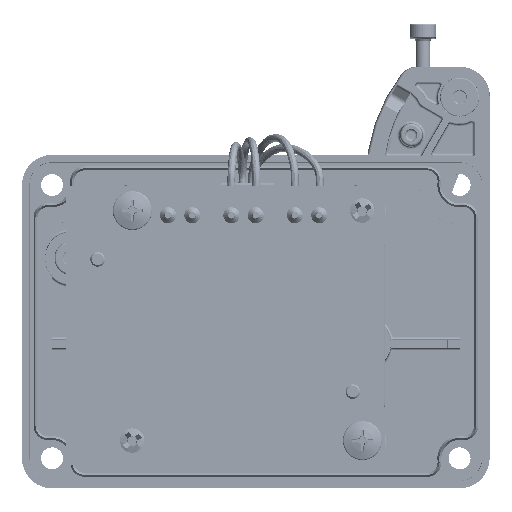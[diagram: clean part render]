
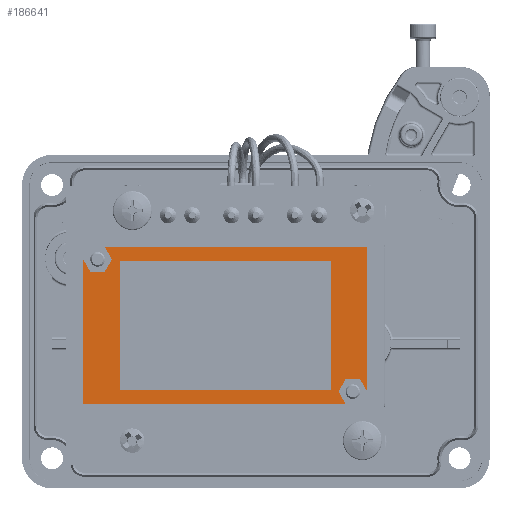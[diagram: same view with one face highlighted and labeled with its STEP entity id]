
A CAD part, top view. The second image highlights one B-rep face of the part: STEP entity #186641.
In plain terms, the highlighted planar face has unit normal (0, 0, 1).
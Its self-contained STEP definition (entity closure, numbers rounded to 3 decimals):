
#2980 = CARTESIAN_POINT ( 'NONE',  ( -35.375, -17.08, 114.8 ) ) ;
#5178 = LINE ( 'NONE', #95284, #89108 ) ;
#6905 = EDGE_CURVE ( 'NONE', #161028, #52583, #104644, .T. ) ;
#7089 = EDGE_CURVE ( 'NONE', #52583, #76836, #134868, .T. ) ;
#7691 = DIRECTION ( 'NONE',  ( -0.5, -0.866, 0. ) ) ;
#8199 = LINE ( 'NONE', #154977, #57752 ) ;
#10729 = ORIENTED_EDGE ( 'NONE', *, *, #43231, .T. ) ;
#11737 = CARTESIAN_POINT ( 'NONE',  ( 18.408, -17.08, 114.8 ) ) ;
#11897 = CARTESIAN_POINT ( 'NONE',  ( -30.958, 10.02, 114.8 ) ) ;
#11976 = CARTESIAN_POINT ( 'NONE',  ( -29.486, 12.57, 114.8 ) ) ;
#13624 = VERTEX_POINT ( 'NONE', #86523 ) ;
#13867 = LINE ( 'NONE', #90490, #97207 ) ;
#16192 = VECTOR ( 'NONE', #65837, 1000. ) ;
#16530 = CARTESIAN_POINT ( 'NONE',  ( -6.275, -0.98, 114.8 ) ) ;
#17312 = DIRECTION ( 'NONE',  ( -0.5, 0.866, 0. ) ) ;
#17404 = DIRECTION ( 'NONE',  ( 0., 1., 0. ) ) ;
#19257 = DIRECTION ( 'NONE',  ( 1., 0., 0. ) ) ;
#19654 = CARTESIAN_POINT ( 'NONE',  ( -27.925, -14.13, 114.8 ) ) ;
#20233 = CARTESIAN_POINT ( 'NONE',  ( 22.825, 15.12, 114.8 ) ) ;
#21469 = DIRECTION ( 'NONE',  ( -1., 0., 0. ) ) ;
#22143 = EDGE_CURVE ( 'NONE', #110582, #82533, #163005, .T. ) ;
#23619 = LINE ( 'NONE', #82116, #16192 ) ;
#23756 = ORIENTED_EDGE ( 'NONE', *, *, #6905, .T. ) ;
#24703 = CARTESIAN_POINT ( 'NONE',  ( 22.825, -14.53, 114.8 ) ) ;
#26474 = EDGE_CURVE ( 'NONE', #188948, #110582, #13867, .T. ) ;
#30926 = FACE_OUTER_BOUND ( 'NONE', #66429, .T. ) ;
#34068 = VECTOR ( 'NONE', #171162, 1000. ) ;
#34407 = ORIENTED_EDGE ( 'NONE', *, *, #168800, .F. ) ;
#34531 = VECTOR ( 'NONE', #19257, 1000. ) ;
#35422 = CARTESIAN_POINT ( 'NONE',  ( -33.903, 10.02, 114.8 ) ) ;
#37852 = CARTESIAN_POINT ( 'NONE',  ( 5.266, 5.683, 114.8 ) ) ;
#43231 = EDGE_CURVE ( 'NONE', #148444, #13624, #165976, .T. ) ;
#45709 = EDGE_CURVE ( 'NONE', #161028, #158618, #184554, .T. ) ;
#48565 = VECTOR ( 'NONE', #93554, 1000. ) ;
#50419 = CARTESIAN_POINT ( 'NONE',  ( 15.375, 12.17, 114.8 ) ) ;
#52170 = CARTESIAN_POINT ( 'NONE',  ( 9.683, 8.233, 114.8 ) ) ;
#52583 = VERTEX_POINT ( 'NONE', #153096 ) ;
#54110 = LINE ( 'NONE', #37852, #34068 ) ;
#56853 = FACE_BOUND ( 'NONE', #66428, .T. ) ;
#57752 = VECTOR ( 'NONE', #92604, 1000. ) ;
#58213 = ORIENTED_EDGE ( 'NONE', *, *, #64486, .T. ) ;
#59038 = ORIENTED_EDGE ( 'NONE', *, *, #81231, .T. ) ;
#59161 = CARTESIAN_POINT ( 'NONE',  ( -35.375, 15.12, 114.8 ) ) ;
#59690 = DIRECTION ( 'NONE',  ( 0., 0., 1. ) ) ;
#63474 = ORIENTED_EDGE ( 'NONE', *, *, #26474, .F. ) ;
#64486 = EDGE_CURVE ( 'NONE', #113386, #148444, #5178, .T. ) ;
#65837 = DIRECTION ( 'NONE',  ( -0.5, -0.866, 0. ) ) ;
#66428 = EDGE_LOOP ( 'NONE', ( #149669, #189170, #63474, #34407 ) ) ;
#66429 = EDGE_LOOP ( 'NONE', ( #157954, #59038, #162105, #89611, #189731, #86224, #23756, #126942, #122113, #164603, #58213, #10729 ) ) ;
#67082 = LINE ( 'NONE', #154437, #171821 ) ;
#68341 = VECTOR ( 'NONE', #17312, 1000. ) ;
#69396 = VECTOR ( 'NONE', #103405, 1000. ) ;
#76836 = VERTEX_POINT ( 'NONE', #187754 ) ;
#80551 = LINE ( 'NONE', #139097, #87293 ) ;
#81231 = EDGE_CURVE ( 'NONE', #173307, #115931, #164156, .T. ) ;
#82116 = CARTESIAN_POINT ( 'NONE',  ( -30.958, 10.02, 114.8 ) ) ;
#82533 = VERTEX_POINT ( 'NONE', #19654 ) ;
#84336 = EDGE_CURVE ( 'NONE', #131559, #166088, #80551, .T. ) ;
#86224 = ORIENTED_EDGE ( 'NONE', *, *, #45709, .F. ) ;
#86523 = CARTESIAN_POINT ( 'NONE',  ( -35.375, 12.57, 114.8 ) ) ;
#87293 = VECTOR ( 'NONE', #7691, 1000. ) ;
#89108 = VECTOR ( 'NONE', #21469, 1000. ) ;
#89611 = ORIENTED_EDGE ( 'NONE', *, *, #84336, .F. ) ;
#90490 = CARTESIAN_POINT ( 'NONE',  ( -27.925, 12.17, 114.8 ) ) ;
#91843 = LINE ( 'NONE', #178249, #134153 ) ;
#92604 = DIRECTION ( 'NONE',  ( 1., 0., 0. ) ) ;
#93052 = VECTOR ( 'NONE', #17404, 1000. ) ;
#93554 = DIRECTION ( 'NONE',  ( 0., 1., 0. ) ) ;
#95284 = CARTESIAN_POINT ( 'NONE',  ( -33.903, 10.02, 114.8 ) ) ;
#95691 = EDGE_CURVE ( 'NONE', #104925, #113386, #23619, .T. ) ;
#97207 = VECTOR ( 'NONE', #162514, 1000. ) ;
#98130 = DIRECTION ( 'NONE',  ( -0.5, 0.866, 0. ) ) ;
#101555 = CARTESIAN_POINT ( 'NONE',  ( 21.353, -11.98, 114.8 ) ) ;
#103405 = DIRECTION ( 'NONE',  ( 0., -1., 0. ) ) ;
#103568 = EDGE_CURVE ( 'NONE', #13624, #173307, #149478, .T. ) ;
#104644 = LINE ( 'NONE', #20233, #93052 ) ;
#104925 = VERTEX_POINT ( 'NONE', #11976 ) ;
#106232 = DIRECTION ( 'NONE',  ( 0.5, -0.866, 0. ) ) ;
#110582 = VERTEX_POINT ( 'NONE', #156065 ) ;
#111211 = DIRECTION ( 'NONE',  ( -1., 0., 0. ) ) ;
#113386 = VERTEX_POINT ( 'NONE', #11897 ) ;
#113915 = CARTESIAN_POINT ( 'NONE',  ( 16.936, -14.53, 114.8 ) ) ;
#115931 = VERTEX_POINT ( 'NONE', #11737 ) ;
#118176 = DIRECTION ( 'NONE',  ( 1., 0., 0. ) ) ;
#118985 = VERTEX_POINT ( 'NONE', #161661 ) ;
#120558 = AXIS2_PLACEMENT_3D ( 'NONE', #16530, #59690, #118176 ) ;
#122113 = ORIENTED_EDGE ( 'NONE', *, *, #177354, .T. ) ;
#123055 = CARTESIAN_POINT ( 'NONE',  ( -35.375, -17.08, 114.8 ) ) ;
#124025 = EDGE_CURVE ( 'NONE', #166088, #115931, #54110, .T. ) ;
#126942 = ORIENTED_EDGE ( 'NONE', *, *, #7089, .T. ) ;
#131559 = VERTEX_POINT ( 'NONE', #154605 ) ;
#134153 = VECTOR ( 'NONE', #106232, 1000. ) ;
#134747 = CARTESIAN_POINT ( 'NONE',  ( 15.375, 12.17, 114.8 ) ) ;
#134868 = LINE ( 'NONE', #59161, #138972 ) ;
#138972 = VECTOR ( 'NONE', #176215, 1000. ) ;
#139097 = CARTESIAN_POINT ( 'NONE',  ( 17.001, -14.418, 114.8 ) ) ;
#142581 = VECTOR ( 'NONE', #147644, 1000. ) ;
#147644 = DIRECTION ( 'NONE',  ( 0., -1., 0. ) ) ;
#148444 = VERTEX_POINT ( 'NONE', #35422 ) ;
#148618 = VECTOR ( 'NONE', #98130, 1000. ) ;
#149478 = LINE ( 'NONE', #161076, #69396 ) ;
#149669 = ORIENTED_EDGE ( 'NONE', *, *, #168810, .F. ) ;
#153096 = CARTESIAN_POINT ( 'NONE',  ( 22.825, 15.12, 114.8 ) ) ;
#154024 = LINE ( 'NONE', #50419, #48565 ) ;
#154437 = CARTESIAN_POINT ( 'NONE',  ( -6.275, -11.98, 114.8 ) ) ;
#154605 = CARTESIAN_POINT ( 'NONE',  ( 18.408, -11.98, 114.8 ) ) ;
#154977 = CARTESIAN_POINT ( 'NONE',  ( -27.925, -14.13, 114.8 ) ) ;
#156065 = CARTESIAN_POINT ( 'NONE',  ( -27.925, 12.17, 114.8 ) ) ;
#157954 = ORIENTED_EDGE ( 'NONE', *, *, #103568, .T. ) ;
#158618 = VERTEX_POINT ( 'NONE', #101555 ) ;
#161028 = VERTEX_POINT ( 'NONE', #24703 ) ;
#161076 = CARTESIAN_POINT ( 'NONE',  ( -35.375, 15.12, 114.8 ) ) ;
#161408 = PLANE ( 'NONE',  #120558 ) ;
#161661 = CARTESIAN_POINT ( 'NONE',  ( 15.375, -14.13, 114.8 ) ) ;
#162105 = ORIENTED_EDGE ( 'NONE', *, *, #124025, .F. ) ;
#162514 = DIRECTION ( 'NONE',  ( -1., 0., 0. ) ) ;
#163005 = LINE ( 'NONE', #163943, #142581 ) ;
#163943 = CARTESIAN_POINT ( 'NONE',  ( -27.925, 12.17, 114.8 ) ) ;
#164156 = LINE ( 'NONE', #2980, #34531 ) ;
#164603 = ORIENTED_EDGE ( 'NONE', *, *, #95691, .T. ) ;
#165976 = LINE ( 'NONE', #181310, #68341 ) ;
#166088 = VERTEX_POINT ( 'NONE', #113915 ) ;
#168800 = EDGE_CURVE ( 'NONE', #118985, #188948, #154024, .T. ) ;
#168810 = EDGE_CURVE ( 'NONE', #82533, #118985, #8199, .T. ) ;
#171162 = DIRECTION ( 'NONE',  ( 0.5, -0.866, 0. ) ) ;
#171821 = VECTOR ( 'NONE', #111211, 1000. ) ;
#173307 = VERTEX_POINT ( 'NONE', #123055 ) ;
#176215 = DIRECTION ( 'NONE',  ( -1., 0., 0. ) ) ;
#177354 = EDGE_CURVE ( 'NONE', #76836, #104925, #91843, .T. ) ;
#178249 = CARTESIAN_POINT ( 'NONE',  ( -29.486, 12.57, 114.8 ) ) ;
#181310 = CARTESIAN_POINT ( 'NONE',  ( -35.375, 12.57, 114.8 ) ) ;
#182675 = EDGE_CURVE ( 'NONE', #158618, #131559, #67082, .T. ) ;
#184554 = LINE ( 'NONE', #52170, #148618 ) ;
#186641 = ADVANCED_FACE ( 'NONE', ( #30926, #56853 ), #161408, .T. ) ;
#187754 = CARTESIAN_POINT ( 'NONE',  ( -30.958, 15.12, 114.8 ) ) ;
#188948 = VERTEX_POINT ( 'NONE', #134747 ) ;
#189170 = ORIENTED_EDGE ( 'NONE', *, *, #22143, .F. ) ;
#189731 = ORIENTED_EDGE ( 'NONE', *, *, #182675, .F. ) ;
